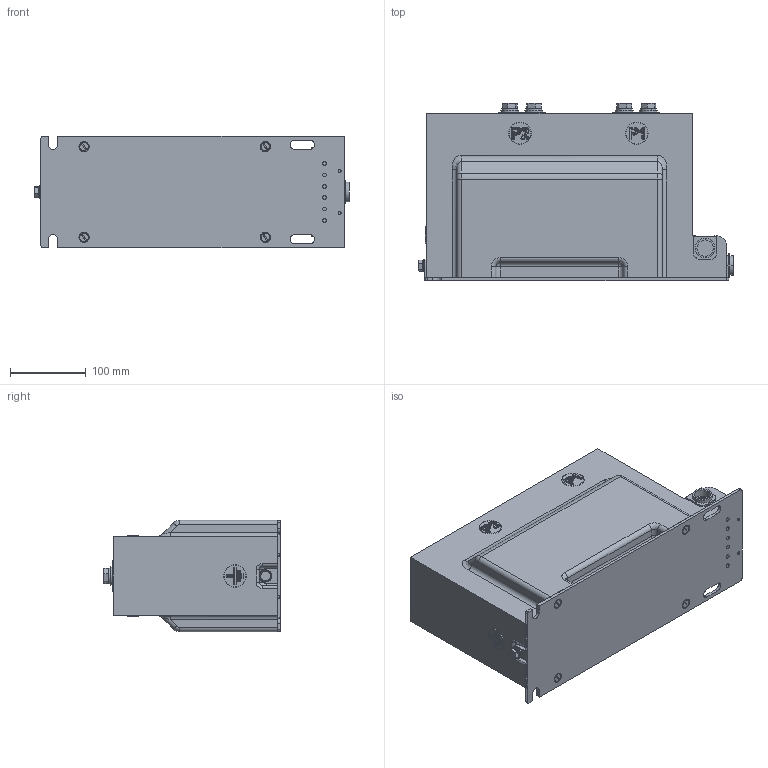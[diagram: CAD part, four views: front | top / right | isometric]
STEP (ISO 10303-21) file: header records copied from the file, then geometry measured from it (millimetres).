
FILE_DESCRIPTION (( 'STEP AP203' ), '1' );
FILE_NAME ('CTS 12 L 1250A.STEP', '2017-11-15T09:54:39', ( '' ), ( '' ), 'SwSTEP 2.0', 'SolidWorks 2017', '' );
FILE_SCHEMA (( 'CONFIG_CONTROL_DESIGN' ));
Length unit declared in the file: millimetre
Products named in the file (1): CTS 12 L 1250A
Bounding box: 416.95 x 235.08 x 148 mm (x, y, z)
Volume: 9825327.2 mm3; surface area: 417598.1 mm2
Topology: 14 solids, 15 shells, 2513 faces, 6255 edges, 3811 vertices
Faces by surface type: plane 977, cylinder 830, bspline 246, torus 196, cone 152, sphere 112
Entity records: 99031 total; most frequent: CARTESIAN_POINT 39914, DIRECTION 12392, ORIENTED_EDGE 12322, EDGE_CURVE 6161, AXIS2_PLACEMENT_3D 4797, VERTEX_POINT 3811, EDGE_LOOP 2832, VECTOR 2798
